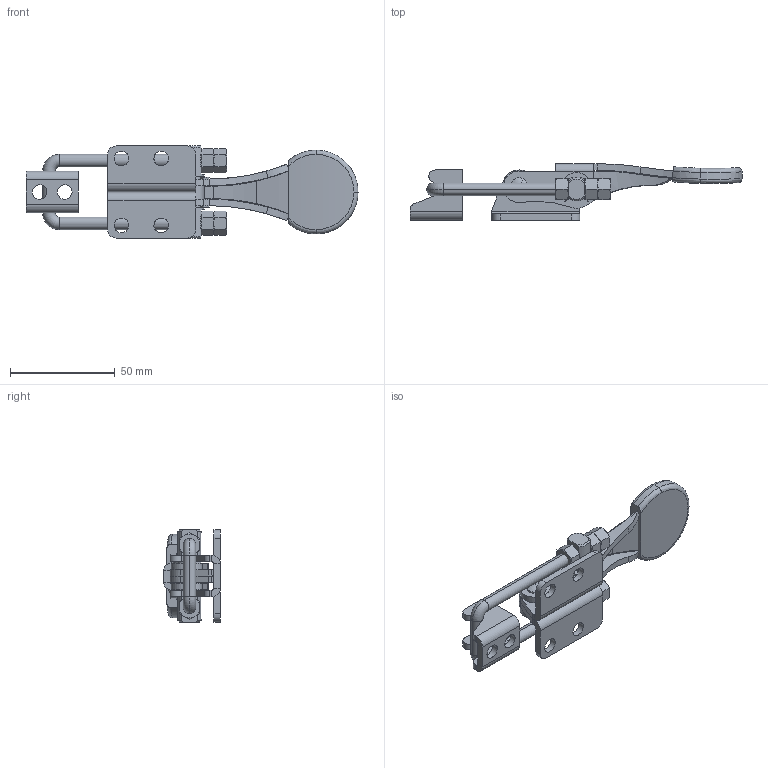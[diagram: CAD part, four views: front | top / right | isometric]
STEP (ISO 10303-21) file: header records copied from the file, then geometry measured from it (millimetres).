
FILE_DESCRIPTION(('CATIA V5 STEP Exchange'),'2;1');
FILE_NAME('\\Kjf-102\kjf_tc\Toggle_Clamp\LATCH TYPE\KJF-032-41F\KJF-032-41FA_A.stp','2025-02-19T00:27:01+00:00',('none'),('none'),'CATIA Version 5 Release 19 SP 9 (IN-10)','CATIA V5 STEP AP214','none');
FILE_SCHEMA(('AUTOMOTIVE_DESIGN { 1 0 10303 214 1 1 1 1 }'));
Length unit declared in the file: millimetre
Products named in the file (12): KJF-032-41FA_-; KJF-032-41F_A_BASE-LH; KJF-032-41F_A_BASE-RH; KJF-032-41F_-_U-BOLT; KJF-032-41F_-_LATCH; KJF-032-41F_-_GUIDE-PIN; KJF-032-41F_-_RIVET; KJF-032-41FS_-_BUSH; KJF-032-41FA_-_HANDLE; KJF-032-41FA_-_HAND-GRIP; SNAP-RING E-8 ; NUT M6
Assembly tree (17 placements, depth 2):
  KJF-032-41FA_-
    KJF-032-41F_A_BASE-LH
    KJF-032-41F_A_BASE-RH
    KJF-032-41F_-_U-BOLT
    KJF-032-41F_-_LATCH
    KJF-032-41F_-_GUIDE-PIN
    KJF-032-41F_-_RIVET
    KJF-032-41FS_-_BUSH
    KJF-032-41FA_-_HANDLE
    KJF-032-41FA_-_HAND-GRIP
    SNAP-RING E-8   x2
    NUT M6  x6
Bounding box: 158.62 x 27 x 44 mm (x, y, z)
Volume: 40207.6 mm3; surface area: 29533.5 mm2
Topology: 17 solids, 17 shells, 731 faces, 1811 edges, 1116 vertices
Faces by surface type: plane 413, cylinder 238, cone 50, bspline 22, torus 6, sphere 2
Entity records: 18358 total; most frequent: CARTESIAN_POINT 4956, ORIENTED_EDGE 3134, DIRECTION 1937, EDGE_CURVE 1567, VERTEX_POINT 956, AXIS2_PLACEMENT_3D 852, VECTOR 747, LINE 747
